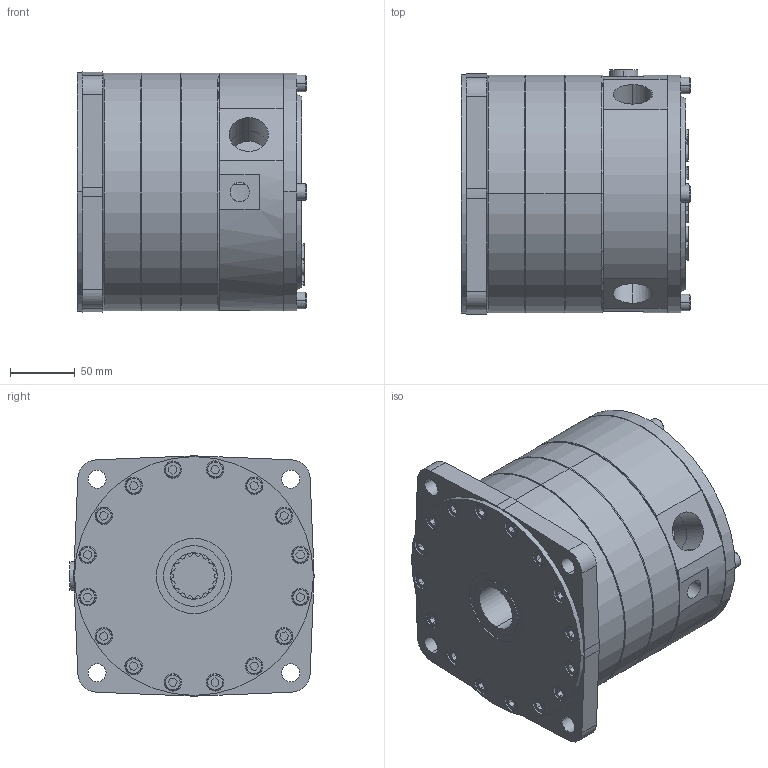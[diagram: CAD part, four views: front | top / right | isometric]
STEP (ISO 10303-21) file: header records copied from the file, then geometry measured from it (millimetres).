
FILE_DESCRIPTION(('Creo Elements/Direct Modeling STEP Export'),'2;1');
FILE_NAME('M14 radial.stp','2017-07-10T14:44:28',(''),(''),'PTC Creo Elements/Direct Modeling STEP processor for AP214 (Solid Model)','PTC Creo Elements/Direct Modeling 19.0C 15-Aug-2015 (C) Parametric Technology GmbH','');
FILE_SCHEMA(('AUTOMOTIVE_DESIGN { 1 0 10303 214 1 1 1 1 }'));
Length unit declared in the file: millimetre
Products named in the file (2): M14
Assembly tree (1 placements, depth 2):
  M14
    M14
Bounding box: 178 x 188.99 x 185.98 mm (x, y, z)
Volume: 4519084.4 mm3; surface area: 210278.6 mm2
Topology: 1 solids, 1 shells, 568 faces, 1397 edges, 912 vertices
Faces by surface type: plane 260, cylinder 197, extrusion 54, cone 43, torus 14
Entity records: 21410 total; most frequent: CARTESIAN_POINT 7420, ORIENTED_EDGE 2794, DIRECTION 2492, EDGE_CURVE 1397, VERTEX_POINT 912, VECTOR 860, AXIS2_PLACEMENT_3D 816, LINE 806
